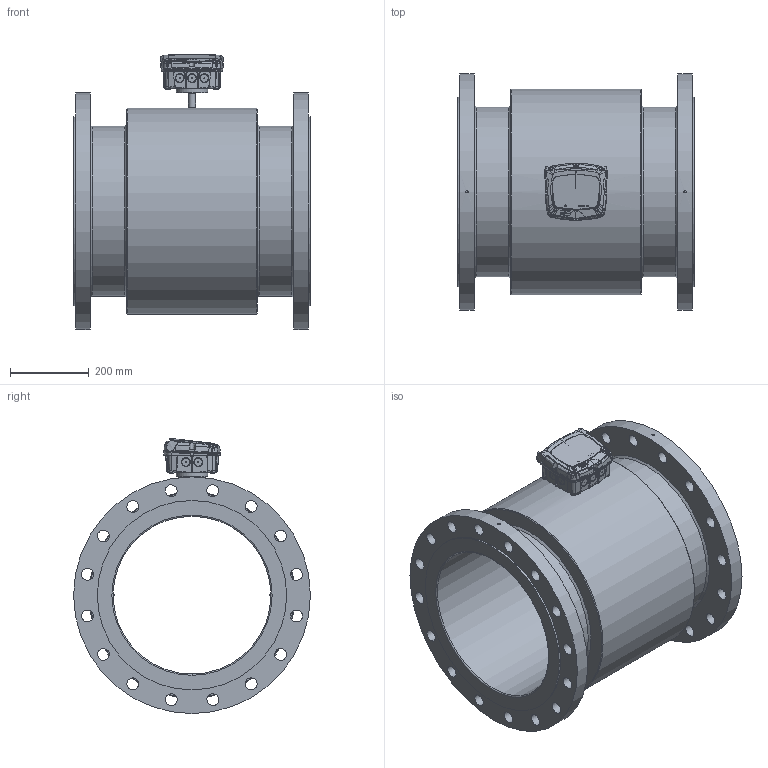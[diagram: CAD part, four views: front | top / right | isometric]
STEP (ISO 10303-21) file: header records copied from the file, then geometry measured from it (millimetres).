
FILE_DESCRIPTION((''),'2;1');
FILE_NAME('C:\Users\Claus\Dropbox\Projects 2011 - 2012\MJK Automation AS\DN 400 - ANSI B16,5.stp','2014-10-24T15:13:06',('Claus'),(''),'Autodesk Inventor 2013','Autodesk Inventor 2013','');
FILE_SCHEMA(('AUTOMOTIVE_DESIGN { 1 0 10303 214 1 1 1 1 }'));
Length unit declared in the file: millimetre
Products named in the file (7): DN 400 - ANSI B16,5; FC_MagFlux_assembly_r1; CH Bund ml; FC Top rev 06.04; CH 03.02; Electrode group DN15 - DN32
Assembly tree (8 placements, depth 3):
  DN 400 - ANSI B16,5
    DN 400 - ANSI B16,5
    FC_MagFlux_assembly_r1
      CH Bund ml
      FC Top rev 06.04
      CH 03.02
    Electrode group DN15 - DN32  x3
Bounding box: 600 x 600 x 697.34 mm (x, y, z)
Volume: 44699918.1 mm3; surface area: 2725235.8 mm2
Topology: 10 solids, 10 shells, 2951 faces, 8042 edges, 5235 vertices
Faces by surface type: bspline 1752, plane 810, cylinder 226, cone 123, torus 25, revolution 9, sphere 6
Full cylindrical faces by diameter (mm): 2.5 x3, 3 x6, 4 x1, 6 x2, 6.5 x4, 7.042 x4, 8 x3, 8.048 x4, 12.072 x4, 15 x1, 18 x1, 18.108 x1, 30 x32, 64 x1, 400 x1, 430 x2, 480 x2, 522 x1, 600 x2
Entity records: 234610 total; most frequent: CARTESIAN_POINT 171650, ORIENTED_EDGE 15560, DIRECTION 7853, EDGE_CURVE 7780, VERTEX_POINT 5173, EDGE_LOOP 3337, VECTOR 3112, LINE 3112
